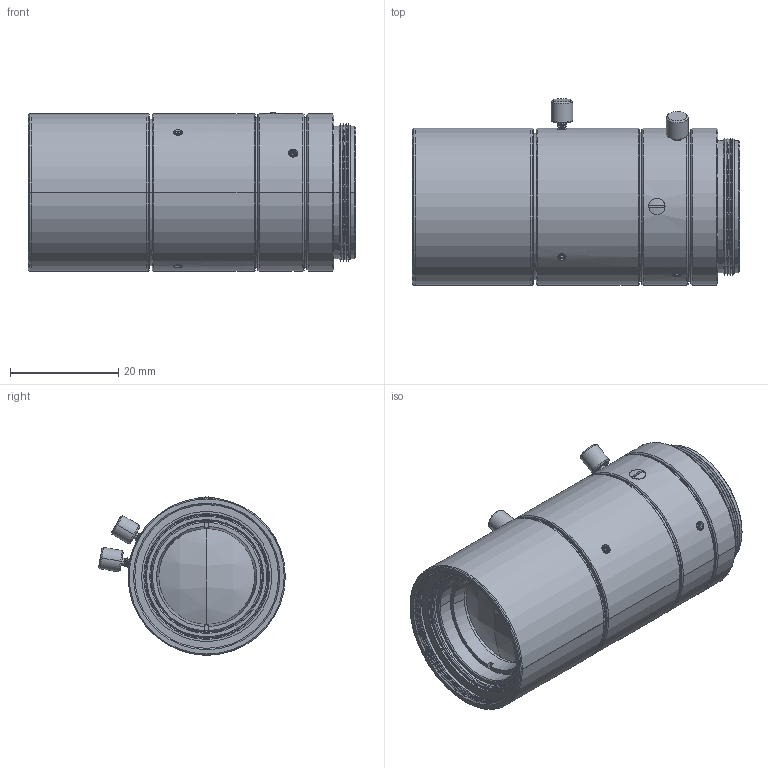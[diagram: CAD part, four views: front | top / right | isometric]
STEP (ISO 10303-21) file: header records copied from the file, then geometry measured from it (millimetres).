
FILE_DESCRIPTION (( 'STEP AP214' ), '1' );
FILE_NAME ('M5028-MPW3.STEP', '2024-02-08T16:52:31', ( '' ), ( '' ), 'SwSTEP 2.0', 'SolidWorks 2024', '' );
FILE_SCHEMA (( 'AUTOMOTIVE_DESIGN' ));
Length unit declared in the file: inch
Products named in the file (3): M5028-MPW3 Infinity_0; M5028-MPW3; M5028-MPW3 Mechanical Limit_0
Assembly tree (2 placements, depth 2):
  M5028-MPW3
    M5028-MPW3 Infinity_0
    M5028-MPW3 Mechanical Limit_0
Bounding box: 60.32 x 34.4 x 29.17 mm (x, y, z)
Volume: 41957.9 mm3; surface area: 64618.1 mm2
Topology: 40 solids, 40 shells, 2430 faces, 5158 edges, 2924 vertices
Faces by surface type: cone 1730, cylinder 410, plane 270, sphere 20
Entity records: 66164 total; most frequent: DIRECTION 12442, CARTESIAN_POINT 12031, ORIENTED_EDGE 10316, EDGE_CURVE 5158, AXIS2_PLACEMENT_3D 5079, VERTEX_POINT 2924, CIRCLE 2644, EDGE_LOOP 2626
